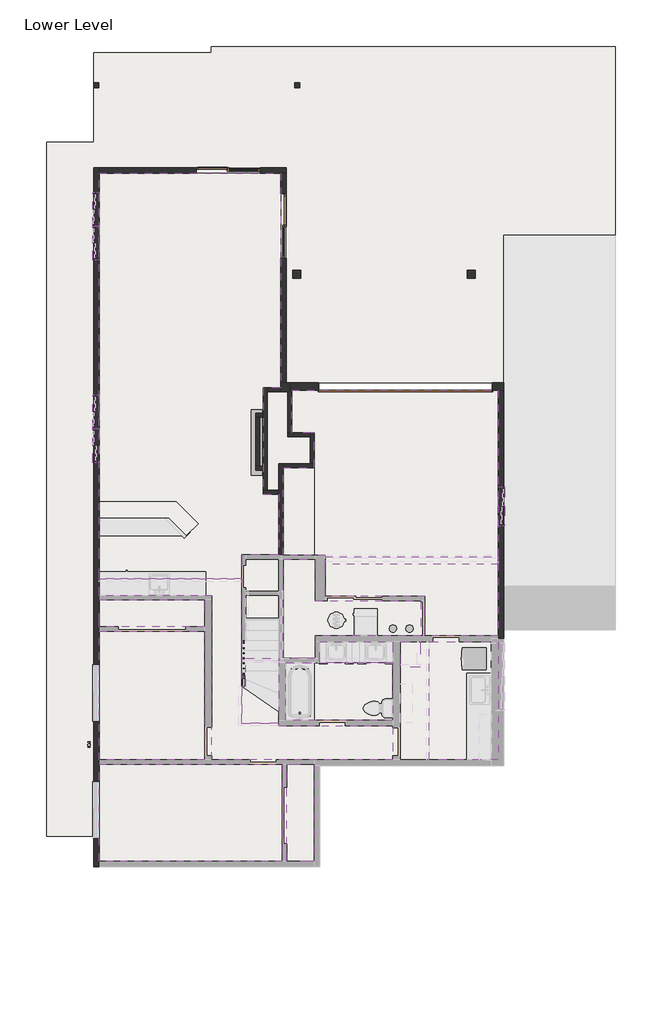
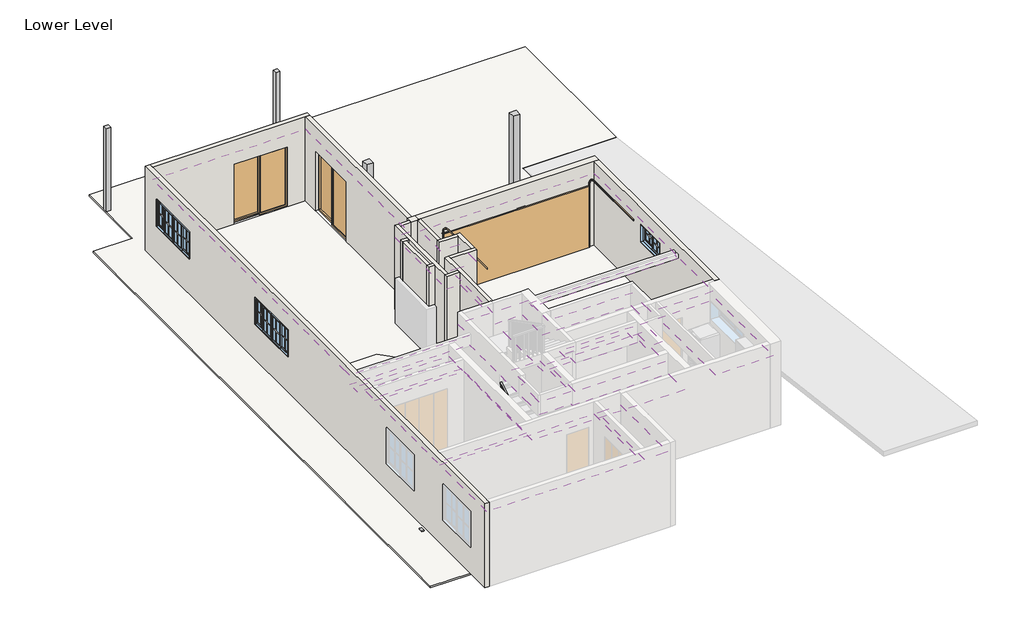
# One storey, part 2 of 3: 20 walls, 14 coverings, 5 windows, 4 columns, 4 slabs, 3 doors, 1 railing.
"""IFC4 building model written with IfcOpenShell, lengths in millimetres."""

from ifc_helpers import new_model, si_unit, frame, origin, place, context, project, spatial, polyline, outline, extrude, faceted_brep, transform, mapped, element, save
from components import rectangular_column_3d_default_1_ab77f7e9, rectangular_column_3d_default_1_58d3c51b, rectangular_column_3d_default_1_3e15c2c2, door_07191283, door_2c25f452, default_1_1ae5369a, default_1_dd337bf1, default_1_e82d8a09

model = new_model("IFC4")

# Units and contexts
model_context = context("Model", 3, world=origin())
ifc_project = project(units=[si_unit("LENGTHUNIT", "METRE", prefix="MILLI")], contexts=[model_context])

# Site, building, storey
site = spatial("IfcSite", under=ifc_project)
building = spatial("IfcBuilding", under=site)
storey = spatial("IfcBuildingStorey", under=building, Name="Lower Level", Elevation=-2844.8)

# Columns
placement = place(None, origin())
rectangular_column_3d_default_1_shape = rectangular_column_3d_default_1_ab77f7e9(model_context)
element("IfcColumn", 1, ObjectType="Rectangular Column 3D : Default 1", at=placement, inside=storey, context=model_context, shape_type="MappedRepresentation", body=[
    mapped(rectangular_column_3d_default_1_shape, transform((-421.5851838, 11951.0061456, -2844.8), x_axis=(1.0, 0.0, 0.0), y_axis=(0.0, 1.0, 0.0), z_axis=(0.0, 0.0, 1.0))),
])
rectangular_column_3d_default_1_2_shape = rectangular_column_3d_default_1_58d3c51b(model_context)
element("IfcColumn", 2, ObjectType="Rectangular Column 3D : Default 1", at=placement, inside=storey, context=model_context, shape_type="MappedRepresentation", body=[
    mapped(rectangular_column_3d_default_1_2_shape, transform((-470.7755931, 6820.2061456, -2844.8), x_axis=(1.0, 0.0, 0.0), y_axis=(0.0, 1.0, 0.0), z_axis=(0.0, 0.0, 1.0))),
])
element("IfcColumn", 3, ObjectType="Rectangular Column 3D : Default 1", at=placement, inside=storey, context=model_context, shape_type="MappedRepresentation", body=[
    mapped(rectangular_column_3d_default_1_2_shape, transform((4228.2244069, 6820.2061456, -2844.8), x_axis=(1.0, 0.0, 0.0), y_axis=(0.0, 1.0, 0.0), z_axis=(0.0, 0.0, 1.0))),
])
rectangular_column_3d_default_1_3_shape = rectangular_column_3d_default_1_3e15c2c2(model_context)
element("IfcColumn", 4, ObjectType="Rectangular Column 3D : Default 1", at=placement, inside=storey, context=model_context, shape_type="MappedRepresentation", body=[
    mapped(rectangular_column_3d_default_1_3_shape, transform((-5844.4851838, 11951.0061456, -2844.8), x_axis=(1.0, 0.0, 0.0), y_axis=(0.0, 1.0, 0.0), z_axis=(0.0, 0.0, 1.0))),
])

# Coverings
element("IfcCovering", 5, ObjectType="1/2\" Ceiling", at=placement, inside=storey, context=model_context, shape_type="SweptSolid", body=[
    extrude(outline(polyline([(-5690.4755931, -8902.3938544), (-5690.4755931, -6279.8438544), (-756.5255931, -6279.8438544), (-756.5255931, -8902.3938544), (-5690.4755931, -8902.3938544)])), frame((0.0, 0.0, -406.4), z_axis=(0.0, 0.0, 1.0), x_axis=(1.0, 0.0, 0.0)), (0.0, 0.0, 1.0), 12.7),
])
element("IfcCovering", 6, ObjectType="1/2\" Ceiling", at=placement, inside=storey, context=model_context, shape_type="SweptSolid", body=[
    extrude(outline(polyline([(-5690.4755931, -6165.5438544), (-5690.4755931, -2692.0938544), (-2845.6755931, -2692.0938544), (-2845.6755931, -6165.5438544), (-5690.4755931, -6165.5438544)])), frame((0.0, 0.0, -406.4), z_axis=(0.0, 0.0, 1.0), x_axis=(1.0, 0.0, 0.0)), (0.0, 0.0, 1.0), 12.7),
])
element("IfcCovering", 7, ObjectType="1/2\" Ceiling", at=placement, inside=storey, context=model_context, shape_type="SweptSolid", body=[
    extrude(outline(polyline([(-642.2255931, -6279.8438544), (100.7244069, -6279.8438544), (100.7244069, -8902.3938544), (-642.2255931, -8902.3938544), (-642.2255931, -6279.8438544)])), frame((0.0, 0.0, -406.4), z_axis=(0.0, 0.0, 1.0), x_axis=(1.0, 0.0, 0.0)), (0.0, 0.0, 1.0), 12.7),
])
element("IfcCovering", 8, ObjectType="1/2\" Ceiling", at=placement, inside=storey, context=model_context, shape_type="SweptSolid", body=[
    extrude(outline(polyline([(-1855.0755931, -1288.7438544), (-5690.4755931, -1288.7438544), (-5690.4755931, -189.0005259), (-5690.4755931, 9652.3061456), (-800.9755931, 9652.3061456), (-800.9755931, 3873.8061456), (-1270.8755931, 3873.8061456), (-1270.8755931, 990.9061456), (-845.4255931, 990.9061456), (-845.4255931, -634.6938544), (-1855.0755931, -634.6938544), (-1855.0755931, -1288.7438544)])), frame((0.0, 0.0, -406.4), z_axis=(0.0, 0.0, 1.0), x_axis=(1.0, 0.0, 0.0)), (0.0, 0.0, 1.0), 12.7),
])
element("IfcCovering", 9, ObjectType="1/2\" Ceiling", at=placement, inside=storey, context=model_context, shape_type="SweptSolid", body=[
    extrude(outline(polyline([(2221.6244069, -5098.7438544), (-667.6255931, -5098.7438544), (-667.6255931, -3542.9938544), (253.1244069, -3542.9938544), (2221.6244069, -3542.9938544), (2221.6244069, -5098.7438544)])), frame((0.0, 0.0, -406.4), z_axis=(0.0, 0.0, 1.0), x_axis=(1.0, 0.0, 0.0)), (0.0, 0.0, 1.0), 12.7),
])
element("IfcCovering", 10, ObjectType="1/2\" Ceiling", at=placement, inside=storey, context=model_context, shape_type="SweptSolid", body=[
    extrude(outline(polyline([(5066.4244069, -2977.8438544), (5066.4244069, -6165.5438544), (3212.2244069, -6165.5438544), (3212.2244069, -2977.8438544), (5066.4244069, -2977.8438544)])), frame((0.0, 0.0, -558.8), z_axis=(0.0, 0.0, 1.0), x_axis=(1.0, 0.0, 0.0)), (0.0, 0.0, 1.0), 12.7),
])
element("IfcCovering", 11, ObjectType="1/2\" Ceiling", at=placement, inside=storey, context=model_context, shape_type="SweptSolid", body=[
    extrude(outline(polyline([(138.8244069, -2812.7438544), (138.8244069, -3428.6938544), (-731.1255931, -3428.6938544), (-731.1255931, -1669.7438544), (-731.1255931, -761.6938544), (138.8244069, -761.6938544), (138.8244069, -1872.9438544), (2970.9244069, -1872.9438544), (2970.9244069, -2812.7438544), (138.8244069, -2812.7438544)])), frame((0.0, 0.0, -711.2), z_axis=(0.0, 0.0, 1.0), x_axis=(1.0, 0.0, 0.0)), (0.0, 0.0, 1.0), 12.7),
])
element("IfcCovering", 12, ObjectType="1/2\" Ceiling", at=placement, inside=storey, context=model_context, shape_type="SweptSolid", body=[
    extrude(outline(polyline([(5066.4244069, 3797.6061456), (5066.4244069, -2812.7438544), (3085.2244069, -2812.7438544), (3085.2244069, -1758.6438544), (405.5244069, -1758.6438544), (405.5244069, -647.3938544), (-731.1255931, -647.3938544), (-731.1255931, 1708.4561456), (107.0744069, 1708.4561456), (107.0744069, 2654.6061456), (-496.1755931, 2654.6061456), (-496.1755931, 3797.6061456), (5066.4244069, 3797.6061456)])), frame((0.0, 0.0, -406.4), z_axis=(0.0, 0.0, 1.0), x_axis=(1.0, 0.0, 0.0)), (0.0, 0.0, 1.0), 12.7),
])
element("IfcCovering", 13, ObjectType="1/2\" Ceiling", at=placement, inside=storey, context=model_context, shape_type="SweptSolid", body=[
    extrude(outline(polyline([(-2845.6755931, -2577.7938544), (-5690.4755931, -2577.7938544), (-5690.4755931, -1853.8938544), (-2845.6755931, -1853.8938544), (-2845.6755931, -2577.7938544)])), frame((0.0, 0.0, -406.4), z_axis=(0.0, 0.0, 1.0), x_axis=(1.0, 0.0, 0.0)), (0.0, 0.0, 1.0), 12.7),
])
element("IfcCovering", 14, ObjectType="1/2\" Ceiling", at=placement, inside=storey, context=model_context, shape_type="SweptSolid", body=[
    extrude(outline(polyline([(-2655.1755931, -1739.5938544), (-5690.4755931, -1739.5938544), (-5690.4755931, -1288.7438544), (-1855.0755931, -1288.7438544), (-1855.0755931, -4184.3438544), (-1855.0755931, -5174.9438544), (-845.4255931, -5174.9438544), (-845.4255931, -5251.1438544), (2221.6244069, -5251.1438544), (2221.6244069, -6165.5438544), (176.9244069, -6165.5438544), (-2655.1755931, -6165.5438544), (-2655.1755931, -1739.5938544)])), frame((0.0, 0.0, -711.2), z_axis=(0.0, 0.0, 1.0), x_axis=(1.0, 0.0, 0.0)), (0.0, 0.0, 1.0), 12.7),
    extrude(outline(polyline([(2424.8244069, -6165.5438544), (2424.8244069, -2977.8438544), (3212.2244069, -2977.8438544), (3212.2244069, -6165.5438544), (2424.8244069, -6165.5438544)])), frame((0.0, 0.0, -711.2), z_axis=(0.0, 0.0, 1.0), x_axis=(1.0, 0.0, 0.0)), (0.0, 0.0, 1.0), 12.7),
])
element("IfcCovering", 15, ObjectType="1/2\" Ceiling", at=placement, inside=storey, context=model_context, shape_type="SweptSolid", body=[
    extrude(outline(polyline([(253.1244069, -3542.9938544), (253.1244069, -2977.8438544), (2221.6244069, -2977.8438544), (2221.6244069, -3542.9938544), (253.1244069, -3542.9938544)])), frame((0.0, 0.0, -711.2), z_axis=(0.0, 0.0, 1.0), x_axis=(1.0, 0.0, 0.0)), (0.0, 0.0, 1.0), 12.7),
])
element("IfcCovering", 16, ObjectType="1/2\" Ceiling", at=placement, inside=storey, context=model_context, shape_type="SweptSolid", body=[
    extrude(outline(polyline([(2958.2244069, -2977.8438544), (2958.2244069, -3663.6438544), (2424.8244069, -3663.6438544), (2424.8244069, -2977.8438544), (2958.2244069, -2977.8438544)])), frame((0.0, 0.0, -863.6), z_axis=(0.0, 0.0, 1.0), x_axis=(1.0, 0.0, 0.0)), (0.0, 0.0, 1.0), 12.7),
])
element("IfcCovering", 17, ObjectType="1/2\" Ceiling", at=placement, inside=storey, context=model_context, shape_type="SweptSolid", body=[
    extrude(outline(polyline([(-1855.0755931, -5174.9438544), (-1855.0755931, -4184.3438544), (-1740.7755931, -4184.3438544), (-1740.7755931, -3428.6938544), (-845.4255931, -3428.6938544), (-845.4255931, -5174.9438544), (-1855.0755931, -5174.9438544)])), frame((0.0, 0.0, -304.8), z_axis=(0.0, 0.0, 1.0), x_axis=(1.0, 0.0, 0.0)), (0.0, 0.0, 1.0), 12.7),
])
element("IfcCovering", 18, ObjectType="1/2\" Ceiling", at=placement, inside=storey, context=model_context, shape_type="SweptSolid", body=[
    extrude(outline(polyline([(5066.4244069, -685.4938544), (5066.4244069, -888.6938544), (405.5244069, -888.6938544), (405.5244069, -685.4938544), (5066.4244069, -685.4938544)])), frame((0.0, 0.0, -457.2), z_axis=(0.0, 0.0, 1.0), x_axis=(1.0, 0.0, 0.0)), (0.0, 0.0, 1.0), 12.7),
])

# Doors
door_shape = door_07191283(model_context)
element("IfcDoor", 19, ObjectType="Planitar - Garage Door : 15'-8\" x 6'-10\"", at=placement, inside=storey, context=model_context, shape_type="MappedRepresentation", body=[
    mapped(door_shape, transform((2564.5244069, 3902.3811456, -2844.8), x_axis=(1.0, 0.0, 0.0), y_axis=(0.0, 1.0, 0.0), z_axis=(0.0, 0.0, 1.0))),
])
door_2_shape = door_2c25f452(model_context)
element("IfcDoor", 20, ObjectType="Planitar - Double Sliding Door_Glass : 5'-8\" x 6'-8\"", at=placement, inside=storey, context=model_context, shape_type="MappedRepresentation", body=[
    mapped(door_2_shape, transform((-2217.0255931, 9601.5061456, -2844.8), x_axis=(1.0, 0.0, 0.0), y_axis=(0.0, 1.0, 0.0), z_axis=(0.0, 0.0, 1.0))),
])
element("IfcDoor", 21, ObjectType="Planitar - Double Sliding Door_Glass : 5'-8\" x 6'-8\"", at=placement, inside=storey, context=model_context, shape_type="MappedRepresentation", body=[
    mapped(door_2_shape, transform((-851.7755931, 8229.9061456, -2844.8), x_axis=(0.0, -1.0, 0.0), y_axis=(1.0, 0.0, 0.0), z_axis=(0.0, 0.0, 1.0))),
])

# Railing
element("IfcRailing", 22, ObjectType="900mm Rectangular", at=placement, inside=storey, context=model_context, shape_type="SweptSolid", body=[
    extrude(outline(polyline([(-4184.3438544, -1829.5271006), (-4184.3438544, -1770.4377527), (-2939.7438544, -986.6159664), (-2939.7438544, -1045.7053144), (-4184.3438544, -1829.5271006)])), frame((-1822.9255931, 0.0, 0.0), z_axis=(1.0, 0.0, 0.0), x_axis=(0.0, 1.0, 0.0)), (0.0, 0.0, 1.0), 50.0),
    extrude(outline(polyline([(-3028.0938544, -1101.3462069), (-3003.0938544, -1085.6017552), (-3003.0938544, -2054.5777778), (-3028.0938544, -2054.5777778), (-3028.0938544, -1101.3462069)])), frame((-1810.4255931, 0.0, 0.0), z_axis=(1.0, 0.0, 0.0), x_axis=(0.0, 1.0, 0.0)), (0.0, 0.0, 1.0), 25.0),
    extrude(outline(polyline([(-3165.5938544, -1187.8773994), (-3140.5938544, -1172.0210225), (-3140.5938544, -2054.5777778), (-3165.5938544, -2054.5777778), (-3165.5938544, -1187.8773994)])), frame((-1810.4255931, 0.0, 0.0), z_axis=(1.0, 0.0, 0.0), x_axis=(0.0, 1.0, 0.0)), (0.0, 0.0, 1.0), 25.0),
    extrude(outline(polyline([(-3303.0938544, -1274.5351762), (-3278.0938544, -1258.7907245), (-3278.0938544, -2212.6222222), (-3303.0938544, -2212.6222222), (-3303.0938544, -1274.5351762)])), frame((-1810.4255931, 0.0, 0.0), z_axis=(1.0, 0.0, 0.0), x_axis=(0.0, 1.0, 0.0)), (0.0, 0.0, 1.0), 25.0),
    extrude(outline(polyline([(-3440.5938544, -1361.1296609), (-3415.5938544, -1345.3852091), (-3415.5938544, -2212.6222222), (-3440.5938544, -2212.6222222), (-3440.5938544, -1361.1296609)])), frame((-1810.4255931, 0.0, 0.0), z_axis=(1.0, 0.0, 0.0), x_axis=(0.0, 1.0, 0.0)), (0.0, 0.0, 1.0), 25.0),
    extrude(outline(polyline([(-3578.0938544, -1447.7241456), (-3553.0938544, -1431.9796938), (-3553.0938544, -2370.6666667), (-3578.0938544, -2370.6666667), (-3578.0938544, -1447.7241456)])), frame((-1810.4255931, 0.0, 0.0), z_axis=(1.0, 0.0, 0.0), x_axis=(0.0, 1.0, 0.0)), (0.0, 0.0, 1.0), 25.0),
    extrude(outline(polyline([(-3715.5938544, -1534.3186302), (-3690.5938544, -1518.5741785), (-3690.5938544, -2370.6666667), (-3715.5938544, -2370.6666667), (-3715.5938544, -1534.3186302)])), frame((-1810.4255931, 0.0, 0.0), z_axis=(1.0, 0.0, 0.0), x_axis=(0.0, 1.0, 0.0)), (0.0, 0.0, 1.0), 25.0),
    extrude(outline(polyline([(-3853.0938544, -1620.9131149), (-3828.0938544, -1605.1686631), (-3828.0938544, -2528.7111111), (-3853.0938544, -2528.7111111), (-3853.0938544, -1620.9131149)])), frame((-1810.4255931, 0.0, 0.0), z_axis=(1.0, 0.0, 0.0), x_axis=(0.0, 1.0, 0.0)), (0.0, 0.0, 1.0), 25.0),
    extrude(outline(polyline([(-3990.5938544, -1707.5075995), (-3965.5938544, -1691.7631478), (-3965.5938544, -2686.7555556), (-3990.5938544, -2686.7555556), (-3990.5938544, -1707.5075995)])), frame((-1810.4255931, 0.0, 0.0), z_axis=(1.0, 0.0, 0.0), x_axis=(0.0, 1.0, 0.0)), (0.0, 0.0, 1.0), 25.0),
    extrude(outline(polyline([(-4128.0938544, -1794.1020842), (-4103.0938544, -1778.3576324), (-4103.0938544, -2686.7555556), (-4128.0938544, -2686.7555556), (-4128.0938544, -1794.1020842)])), frame((-1810.4255931, 0.0, 0.0), z_axis=(1.0, 0.0, 0.0), x_axis=(0.0, 1.0, 0.0)), (0.0, 0.0, 1.0), 25.0),
    extrude(outline(polyline([(-2964.7438544, -1061.4497662), (-2939.7438544, -1045.7053144), (-2939.7438544, -2054.5777778), (-2964.7438544, -2054.5777778), (-2964.7438544, -1061.4497662)])), frame((-1810.4255931, 0.0, 0.0), z_axis=(1.0, 0.0, 0.0), x_axis=(0.0, 1.0, 0.0)), (0.0, 0.0, 1.0), 25.0),
    extrude(outline(polyline([(-4184.3438544, -1829.5271006), (-4159.3438544, -1813.7826489), (-4159.3438544, -2686.7555556), (-4184.3438544, -2686.7555556), (-4184.3438544, -1829.5271006)])), frame((-1810.4255931, 0.0, 0.0), z_axis=(1.0, 0.0, 0.0), x_axis=(0.0, 1.0, 0.0)), (0.0, 0.0, 1.0), 25.0),
])

# Slabs
element("IfcSlab", 23, ObjectType="Ledge - 2\"", at=placement, inside=storey, context=model_context, shape_type="SweptSolid", body=[
    extrude(outline(polyline([(-731.1255931, 1708.4561456), (107.0744069, 1708.4561456), (107.0744069, -647.3938544), (-731.1255931, -647.3938544), (-731.1255931, 1708.4561456)])), frame((0.0, 0.0, -2032.0), z_axis=(0.0, 0.0, 1.0), x_axis=(1.0, 0.0, 0.0)), (0.0, 0.0, 1.0), 50.8),
])
element("IfcSlab", 24, ObjectType="Ledge - 2\"", at=placement, inside=storey, context=model_context, shape_type="SweptSolid", body=[
    extrude(outline(polyline([(-5690.4755931, -8902.3938544), (-5690.4755931, 9652.3061456), (-800.9755931, 9652.3061456), (-800.9755931, 3797.6061456), (5066.4244069, 3797.6061456), (5066.4244069, -2812.7438544), (4875.9244069, -2812.7438544), (4875.9244069, -6165.5438544), (100.7244069, -6165.5438544), (100.7244069, -8902.3938544), (-5690.4755931, -8902.3938544)])), frame((0.0, 0.0, -2895.6), z_axis=(0.0, 0.0, 1.0), x_axis=(1.0, 0.0, 0.0)), (0.0, 0.0, 1.0), 50.8),
])
element("IfcSlab", 25, ObjectType="Ledge - 2\"", at=placement, inside=storey, context=model_context, shape_type="SweptSolid", body=[
    extrude(outline(polyline([(-5842.8755931, 12903.5061456), (-2667.8755931, 12903.5061456), (-2667.8755931, 13068.6061456), (8216.0244069, 13068.6061456), (8216.0244069, 7994.9561456), (5218.8244069, 7994.9561456), (5218.8244069, 4000.8061456), (-648.5755931, 4000.8061456), (-648.5755931, 9804.7061456), (-5842.8755931, 9804.7061456), (-5842.8755931, -8229.2938544), (-7112.8755931, -8229.2938544), (-7112.8755931, 10490.5061456), (-5842.8755931, 10490.5061456), (-5842.8755931, 12903.5061456)])), frame((0.0, 0.0, -2895.6), z_axis=(0.0, 0.0, 1.0), x_axis=(1.0, 0.0, 0.0)), (0.0, 0.0, 1.0), 50.8),
])
element("IfcSlab", 26, ObjectType="Ledge - 2\"", at=placement, inside=storey, context=model_context, shape_type="SweptSolid", body=[
    extrude(outline(polyline([(-3816.5873931, 368.6061456), (-5690.4755931, 368.6061456), (-5690.4755931, 794.0561456), (-3614.0255931, 794.0561456), (-3026.6505931, 206.6811456), (-3340.6564931, -107.3247544), (-3816.5873931, 368.6061456)])), frame((0.0, 0.0, -1727.2), z_axis=(0.0, 0.0, 1.0), x_axis=(1.0, 0.0, 0.0)), (0.0, 0.0, 1.0), 50.8),
])

# Walls
element("IfcWall", 27, ObjectType="Planitar - Generic 6\"", at=placement, inside=storey, context=model_context, shape_type="Brep", body=[
    faceted_brep([(-5690.4755931, -9054.7938544, -2844.8), (-5690.4755931, -8902.3938544, -2844.8), (-5690.4755931, -6279.8438544, -2844.8), (-5690.4755931, -6165.5438544, -2844.8), (-5690.4755931, -2692.0938544, -2844.8), (-5690.4755931, -2577.7938544, -2844.8), (-5690.4755931, -1853.8938544, -2844.8), (-5690.4755931, -1739.5938544, -2844.8), (-5690.4755931, 368.6061456, -2844.8), (-5690.4755931, 482.9061456, -2844.8), (-5690.4755931, 9652.3061456, -2844.8), (-5690.4755931, 9804.7061456, -2844.8), (-5690.4755931, 9804.7061456, 0.0), (-5690.4755931, 9652.3061456, 0.0), (-5690.4755931, -1739.5938544, 0.0), (-5690.4755931, -1853.8938544, 0.0), (-5690.4755931, -2577.7938544, 0.0), (-5690.4755931, -2692.0938544, 0.0), (-5690.4755931, -6165.5438544, 0.0), (-5690.4755931, -6279.8438544, 0.0), (-5690.4755931, -8902.3938544, 0.0), (-5690.4755931, -9054.7938544, 0.0), (-5690.4755931, 3677.9101026, -711.2), (-5690.4755931, 3677.9101026, -1625.6), (-5690.4755931, 1849.1101026, -1625.6), (-5690.4755931, 1849.1101026, -711.2), (-5690.4755931, 7310.1101026, -1625.6), (-5690.4755931, 7310.1101026, -711.2), (-5690.4755931, 9138.9101026, -711.2), (-5690.4755931, 9138.9101026, -1625.6), (-5690.4755931, -6756.0938544, -711.2), (-5690.4755931, -6756.0938544, -1930.4), (-5690.4755931, -8280.0938544, -1930.4), (-5690.4755931, -8280.0938544, -711.2), (-5690.4755931, -3606.4938544, -711.2), (-5690.4755931, -3606.4938544, -1930.4), (-5690.4755931, -5130.4938544, -1930.4), (-5690.4755931, -5130.4938544, -711.2), (-5842.8755931, 9804.7061456, -2844.8), (-5842.8755931, -9054.7938544, -2844.8), (-5842.8755931, -9054.7938544, 0.0), (-5842.8755931, 9804.7061456, 0.0), (-5842.8755931, 3677.9101026, -1625.6), (-5842.8755931, 3677.9101026, -711.2), (-5842.8755931, 1849.1101026, -711.2), (-5842.8755931, 1849.1101026, -1625.6), (-5842.8755931, 7310.1101026, -711.2), (-5842.8755931, 7310.1101026, -1625.6), (-5842.8755931, 9138.9101026, -1625.6), (-5842.8755931, 9138.9101026, -711.2), (-5842.8755931, -6756.0938544, -711.2), (-5842.8755931, -8280.0938544, -711.2), (-5842.8755931, -8280.0938544, -1930.4), (-5842.8755931, -6756.0938544, -1930.4), (-5842.8755931, -3606.4938544, -1930.4), (-5842.8755931, -3606.4938544, -711.2), (-5842.8755931, -5130.4938544, -711.2), (-5842.8755931, -5130.4938544, -1930.4)], [[[0, 1, 2, 3, 4, 5, 6, 7, 8, 9, 10, 11, 12, 13, 14, 15, 16, 17, 18, 19, 20, 21], [22, 23, 24, 25], [26, 27, 28, 29], [30, 31, 32, 33], [34, 35, 36, 37]], [[38, 39, 40, 41], [42, 43, 44, 45], [46, 47, 48, 49], [50, 51, 52, 53], [54, 55, 56, 57]], [[11, 10, 9, 8, 7, 6, 5, 4, 3, 2, 1, 0, 39, 38]], [[21, 20, 19, 18, 17, 16, 15, 14, 13, 12, 41, 40]], [[12, 11, 38, 41]], [[0, 21, 40, 39]], [[23, 22, 43, 42]], [[23, 42, 45, 24]], [[43, 22, 25, 44]], [[25, 24, 45, 44]], [[26, 47, 46, 27]], [[47, 26, 29, 48]], [[27, 46, 49, 28]], [[48, 29, 28, 49]], [[31, 30, 50, 53]], [[32, 31, 53, 52]], [[33, 32, 52, 51]], [[30, 33, 51, 50]], [[34, 55, 54, 35]], [[35, 54, 57, 36]], [[36, 57, 56, 37]], [[55, 34, 37, 56]]]),
])
element("IfcWall", 28, ObjectType="Planitar - Generic 6\"", at=placement, inside=storey, context=model_context, shape_type="Brep", body=[
    faceted_brep([(-1353.4255931, 9652.3061456, -812.8), (-1353.4255931, 9652.3061456, -2844.8), (-800.9755931, 9652.3061456, -2844.8), (-648.5755931, 9652.3061456, -2844.8), (-648.5755931, 9652.3061456, 0.0), (-800.9755931, 9652.3061456, 0.0), (-5690.4755931, 9652.3061456, 0.0), (-5690.4755931, 9652.3061456, -2844.8), (-3080.6255931, 9652.3061456, -2844.8), (-3080.6255931, 9652.3061456, -812.8), (-648.5755931, 9804.7061456, -2844.8), (-1353.4255931, 9804.7061456, -2844.8), (-1353.4255931, 9804.7061456, -812.8), (-3080.6255931, 9804.7061456, -812.8), (-3080.6255931, 9804.7061456, -2844.8), (-5690.4755931, 9804.7061456, -2844.8), (-5690.4755931, 9804.7061456, 0.0), (-648.5755931, 9804.7061456, 0.0)], [[[0, 1, 2, 3, 4, 5, 6, 7, 8, 9]], [[10, 11, 12, 13, 14, 15, 16, 17]], [[8, 7, 15, 14]], [[3, 2, 1, 11, 10]], [[6, 5, 4, 17, 16]], [[7, 6, 16, 15]], [[4, 3, 10, 17]], [[14, 13, 9, 8]], [[12, 11, 1, 0]], [[13, 12, 0, 9]]]),
])
element("IfcWall", 29, ObjectType="Planitar - Generic 6\"", at=placement, inside=storey, context=model_context, shape_type="SweptSolid", body=[
    extrude(outline(polyline([(7366.3061456, -812.8), (7366.3061456, -2844.8), (4000.8061456, -2844.8), (4000.8061456, 0.0), (9652.3061456, 0.0), (9652.3061456, -2844.8), (9093.5061456, -2844.8), (9093.5061456, -812.8), (7366.3061456, -812.8)])), frame((-800.9755931, 0.0, 0.0), z_axis=(1.0, 0.0, 0.0), x_axis=(0.0, 1.0, 0.0)), (0.0, 0.0, 1.0), 152.4),
])
element("IfcWall", 30, ObjectType="Planitar - Generic 6\"", at=placement, inside=storey, context=model_context, shape_type="Brep", body=[
    faceted_brep([(5066.4244069, 3797.6061456, -2844.8), (5066.4244069, -2812.7438544, -2844.8), (5066.4244069, -2895.2938544, -2844.8), (5066.4244069, -2895.2938544, 0.0), (5066.4244069, -2812.7438544, 0.0), (5066.4244069, 3797.6061456, 0.0), (5066.4244069, 133.6561456, -558.8), (5066.4244069, 133.6561456, -1168.4), (5066.4244069, 1200.4561456, -1168.4), (5066.4244069, 1200.4561456, -558.8), (5218.8244069, -2895.2938544, -2844.8), (5218.8244069, 3797.6061456, -2844.8), (5218.8244069, 3797.6061456, 0.0), (5218.8244069, -2895.2938544, 0.0), (5218.8244069, 133.6561456, -1168.4), (5218.8244069, 133.6561456, -558.8), (5218.8244069, 1200.4561456, -558.8), (5218.8244069, 1200.4561456, -1168.4)], [[[0, 1, 2, 3, 4, 5], [6, 7, 8, 9]], [[10, 11, 12, 13], [14, 15, 16, 17]], [[2, 1, 0, 11, 10]], [[3, 2, 10, 13]], [[5, 4, 3, 13, 12]], [[0, 5, 12, 11]], [[6, 15, 14, 7]], [[7, 14, 17, 8]], [[8, 17, 16, 9]], [[15, 6, 9, 16]]]),
])
element("IfcWall", 31, ObjectType="Planitar - Generic 4 1/2\"", at=placement, inside=storey, context=model_context, shape_type="Brep", body=[
    faceted_brep([(-731.1255931, -647.3938544, 0.0), (-731.1255931, -647.3938544, -2844.8), (-731.1255931, 1708.4561456, -2844.8), (-731.1255931, 1822.7561456, -2844.8), (-731.1255931, 1822.7561456, 0.0), (-731.1255931, 1708.4561456, 0.0), (-845.4255931, -634.6938544, -2844.8), (-845.4255931, -634.6938544, 0.0), (-845.4255931, 990.9061456, 0.0), (-845.4255931, 1105.2061456, 0.0), (-845.4255931, 1822.7561456, 0.0), (-845.4255931, 1822.7561456, -2844.8), (-845.4255931, 1105.2061456, -2844.8), (-845.4255931, 990.9061456, -2844.8), (-788.2755931, -647.3938544, -2844.8), (-788.2755931, -634.6938544, -2844.8), (-788.2755931, -634.6938544, 0.0), (-788.2755931, -647.3938544, 0.0)], [[[0, 1, 2, 3, 4, 5]], [[6, 7, 8, 9, 10, 11, 12, 13]], [[3, 2, 1, 14, 15, 6, 13, 12, 11]], [[0, 5, 4, 10, 9, 8, 7, 16, 17]], [[4, 3, 11, 10]], [[17, 16, 15, 14]], [[15, 16, 7, 6]], [[0, 17, 14, 1]]]),
])
element("IfcWall", 32, ObjectType="Planitar - Generic 4 1/2\"", at=placement, inside=storey, context=model_context, shape_type="Brep", body=[
    faceted_brep([(-731.1255931, 1708.4561456, -2844.8), (-7.2255931, 1708.4561456, -2844.8), (107.0744069, 1708.4561456, -2844.8), (107.0744069, 1708.4561456, -2032.0), (107.0744069, 1708.4561456, 0.0), (-731.1255931, 1708.4561456, 0.0), (-731.1255931, 1822.7561456, -2844.8), (-731.1255931, 1822.7561456, 0.0), (-7.2255931, 1822.7561456, 0.0), (107.0744069, 1822.7561456, 0.0), (107.0744069, 1822.7561456, -2844.8), (-7.2255931, 1822.7561456, -2844.8)], [[[0, 1, 2, 3, 4, 5]], [[6, 7, 8, 9, 10, 11]], [[2, 1, 0, 6, 11, 10]], [[5, 4, 9, 8, 7]], [[0, 5, 7, 6]], [[2, 10, 9, 4, 3]]]),
])
element("IfcWall", 33, ObjectType="Planitar - Generic 4 1/2\"", at=placement, inside=storey, context=model_context, shape_type="Brep", body=[
    faceted_brep([(107.0744069, 1822.7561456, 0.0), (107.0744069, 1822.7561456, -2844.8), (107.0744069, 2654.6061456, -2844.8), (107.0744069, 2654.6061456, 0.0), (-7.2255931, 1822.7561456, -2844.8), (-7.2255931, 1822.7561456, 0.0), (-7.2255931, 2540.3061456, 0.0), (-7.2255931, 2654.6061456, 0.0), (-7.2255931, 2654.6061456, -2844.8), (-7.2255931, 2540.3061456, -2844.8)], [[[0, 1, 2, 3]], [[4, 5, 6, 7, 8, 9]], [[2, 1, 4, 9, 8]], [[0, 3, 7, 6, 5]], [[3, 2, 8, 7]], [[0, 5, 4, 1]]]),
])
element("IfcWall", 34, ObjectType="Planitar - Generic 4 1/2\"", at=placement, inside=storey, context=model_context, shape_type="Brep", body=[
    faceted_brep([(-7.2255931, 2654.6061456, -2844.8), (-496.1755931, 2654.6061456, -2844.8), (-610.4755931, 2654.6061456, -2844.8), (-610.4755931, 2654.6061456, 0.0), (-496.1755931, 2654.6061456, 0.0), (-7.2255931, 2654.6061456, 0.0), (-7.2255931, 2540.3061456, -2844.8), (-7.2255931, 2540.3061456, 0.0), (-610.4755931, 2540.3061456, 0.0), (-610.4755931, 2540.3061456, -2844.8)], [[[0, 1, 2, 3, 4, 5]], [[6, 7, 8, 9]], [[2, 1, 0, 6, 9]], [[5, 4, 3, 8, 7]], [[0, 5, 7, 6]], [[3, 2, 9, 8]]]),
])
element("IfcWall", 35, ObjectType="Planitar - Generic 4 1/2\"", at=placement, inside=storey, context=model_context, shape_type="SweptSolid", body=[
    extrude(outline(polyline([(-496.1755931, 3797.6061456), (-496.1755931, 2654.6061456), (-610.4755931, 2654.6061456), (-610.4755931, 3759.5061456), (-553.3255931, 3759.5061456), (-553.3255931, 3797.6061456), (-496.1755931, 3797.6061456)])), frame((0.0, 0.0, -2844.8), z_axis=(0.0, 0.0, 1.0), x_axis=(1.0, 0.0, 0.0)), (0.0, 0.0, 1.0), 2844.8),
])
element("IfcWall", 36, ObjectType="Planitar - Generic 8\"", at=placement, inside=storey, context=model_context, shape_type="Brep", body=[
    faceted_brep([(5218.8244069, 3797.6061456, 0.0), (5066.4244069, 3797.6061456, 0.0), (-496.1755931, 3797.6061456, 0.0), (-553.3255931, 3797.6061456, 0.0), (-553.3255931, 3797.6061456, -2844.8), (-496.1755931, 3797.6061456, -2844.8), (227.7244069, 3797.6061456, -2844.8), (227.7244069, 3797.6061456, -762.0), (4901.3244069, 3797.6061456, -762.0), (4901.3244069, 3797.6061456, -2844.8), (5066.4244069, 3797.6061456, -2844.8), (5218.8244069, 3797.6061456, -2844.8), (-553.3255931, 4000.8061456, 0.0), (5218.8244069, 4000.8061456, 0.0), (5218.8244069, 4000.8061456, -2844.8), (4901.3244069, 4000.8061456, -2844.8), (4901.3244069, 4000.8061456, -762.0), (227.7244069, 4000.8061456, -762.0), (227.7244069, 4000.8061456, -2844.8), (-553.3255931, 4000.8061456, -2844.8)], [[[0, 1, 2, 3, 4, 5, 6, 7, 8, 9, 10, 11]], [[12, 13, 14, 15, 16, 17, 18, 19]], [[14, 11, 10, 9, 15]], [[4, 19, 18, 6, 5]], [[3, 2, 1, 0, 13, 12]], [[4, 3, 12, 19]], [[0, 11, 14, 13]], [[8, 16, 15, 9]], [[16, 8, 7, 17]], [[17, 7, 6, 18]]]),
])
element("IfcWall", 37, ObjectType="Planitar - Generic 9 1/2\"", at=placement, inside=storey, context=model_context, shape_type="Brep", body=[
    faceted_brep([(-553.3255931, 4000.8061456, -2844.8), (-648.5755931, 4000.8061456, -2844.8), (-800.9755931, 4000.8061456, -2844.8), (-800.9755931, 4000.8061456, 0.0), (-648.5755931, 4000.8061456, 0.0), (-553.3255931, 4000.8061456, 0.0), (-553.3255931, 3759.5061456, -2844.8), (-553.3255931, 3759.5061456, 0.0), (-610.4755931, 3759.5061456, 0.0), (-800.9755931, 3759.5061456, 0.0), (-800.9755931, 3759.5061456, -2844.8), (-610.4755931, 3759.5061456, -2844.8), (-553.3255931, 3797.6061456, -2844.8), (-800.9755931, 3873.8061456, -2844.8), (-800.9755931, 3873.8061456, 0.0), (-553.3255931, 3797.6061456, 0.0)], [[[0, 1, 2, 3, 4, 5]], [[6, 7, 8, 9, 10, 11]], [[2, 1, 0, 12, 6, 11, 10, 13]], [[5, 4, 3, 14, 9, 8, 7, 15]], [[0, 5, 15, 7, 6, 12]], [[3, 2, 13, 10, 9, 14]]]),
])
element("IfcWall", 38, ObjectType="Planitar - Generic 4 1/2\"", at=placement, inside=storey, context=model_context, shape_type="Brep", body=[
    faceted_brep([(-845.4255931, 1105.2061456, -2844.8), (-1156.5755931, 1105.2061456, -2844.8), (-1270.8755931, 1105.2061456, -2844.8), (-1270.8755931, 1105.2061456, 0.0), (-1156.5755931, 1105.2061456, 0.0), (-845.4255931, 1105.2061456, 0.0), (-845.4255931, 990.9061456, -2844.8), (-845.4255931, 990.9061456, 0.0), (-1270.8755931, 990.9061456, 0.0), (-1270.8755931, 990.9061456, -2844.8)], [[[0, 1, 2, 3, 4, 5]], [[6, 7, 8, 9]], [[2, 1, 0, 6, 9]], [[5, 4, 3, 8, 7]], [[0, 5, 7, 6]], [[3, 2, 9, 8]]]),
])
element("IfcWall", 39, ObjectType="Planitar - Generic 4 1/2\"", at=placement, inside=storey, context=model_context, shape_type="SweptSolid", body=[
    extrude(outline(polyline([(-800.9755931, 3759.5061456), (-1156.5755931, 3759.5061456), (-1156.5755931, 3873.8061456), (-800.9755931, 3873.8061456), (-800.9755931, 3759.5061456)])), frame((0.0, 0.0, -2844.8), z_axis=(0.0, 0.0, 1.0), x_axis=(1.0, 0.0, 0.0)), (0.0, 0.0, 1.0), 2844.8),
])
element("IfcWall", 40, ObjectType="Planitar - Generic 4 1/2\"", at=placement, inside=storey, context=model_context, shape_type="Brep", body=[
    faceted_brep([(-5690.4755931, 368.6061456, -2844.8), (-3816.5873931, 368.6061456, -2844.8), (-3654.9427829, 368.6061456, -2844.8), (-3654.9427829, 368.6061456, -1727.2), (-3816.5873931, 368.6061456, -1727.2), (-5690.4755931, 368.6061456, -1727.2), (-5690.4755931, 482.9061456, -2844.8), (-5690.4755931, 482.9061456, -1727.2), (-3769.2427829, 482.9061456, -1727.2), (-3769.2427829, 482.9061456, -2844.8)], [[[0, 1, 2, 3, 4, 5]], [[6, 7, 8, 9]], [[2, 1, 0, 6, 9]], [[5, 4, 3, 8, 7]], [[3, 2, 9, 8]], [[0, 5, 7, 6]]]),
])
element("IfcWall", 41, ObjectType="Planitar - Generic 4 1/2\"", at=placement, inside=storey, context=model_context, shape_type="SweptSolid", body=[
    extrude(outline(polyline([(-3340.6564931, -107.3247544), (-3816.5873931, 368.6061456), (-3654.9427829, 368.6061456), (-3259.834188, -26.5024493), (-3340.6564931, -107.3247544)])), frame((0.0, 0.0, -2844.8), z_axis=(0.0, 0.0, 1.0), x_axis=(1.0, 0.0, 0.0)), (0.0, 0.0, 1.0), 1117.6),
])
element("IfcWall", 42, ObjectType="Planitar - Generic 4 1/2\"", at=placement, inside=storey, context=model_context, shape_type="Brep", body=[
    faceted_brep([(-1270.8755931, 1752.9061456, -2006.6), (-1359.7755931, 1752.9061456, -2006.6), (-1474.0755931, 1752.9061456, -2006.6), (-1474.0755931, 1752.9061456, 0.0), (-1359.7755931, 1752.9061456, 0.0), (-1270.8755931, 1752.9061456, 0.0), (-1270.8755931, 1638.6061456, -2006.6), (-1270.8755931, 1638.6061456, 0.0), (-1474.0755931, 1638.6061456, 0.0), (-1474.0755931, 1638.6061456, -2006.6)], [[[0, 1, 2, 3, 4, 5]], [[6, 7, 8, 9]], [[2, 1, 0, 6, 9]], [[5, 4, 3, 8, 7]], [[3, 2, 9, 8]], [[0, 5, 7, 6]]]),
])
element("IfcWall", 43, ObjectType="Planitar - Generic 4 1/2\"", at=placement, inside=storey, context=model_context, shape_type="SweptSolid", body=[
    extrude(outline(polyline([(-1359.7755931, 3067.3561456), (-1359.7755931, 1752.9061456), (-1474.0755931, 1752.9061456), (-1474.0755931, 3067.3561456), (-1359.7755931, 3067.3561456)])), frame((0.0, 0.0, -2006.6), z_axis=(0.0, 0.0, 1.0), x_axis=(1.0, 0.0, 0.0)), (0.0, 0.0, 1.0), 2006.6),
])
element("IfcWall", 44, ObjectType="Planitar - Generic 4 1/2\"", at=placement, inside=storey, context=model_context, shape_type="Brep", body=[
    faceted_brep([(-1474.0755931, 3067.3561456, -2006.6), (-1359.7755931, 3067.3561456, -2006.6), (-1270.8755931, 3067.3561456, -2006.6), (-1270.8755931, 3067.3561456, 0.0), (-1359.7755931, 3067.3561456, 0.0), (-1474.0755931, 3067.3561456, 0.0), (-1474.0755931, 3181.6561456, -2006.6), (-1474.0755931, 3181.6561456, 0.0), (-1270.8755931, 3181.6561456, 0.0), (-1270.8755931, 3181.6561456, -2006.6)], [[[0, 1, 2, 3, 4, 5]], [[6, 7, 8, 9]], [[2, 1, 0, 6, 9]], [[5, 4, 3, 8, 7]], [[0, 5, 7, 6]], [[3, 2, 9, 8]]]),
])
element("IfcWall", 45, ObjectType="Planitar - Generic 4 1/2\"", at=placement, inside=storey, context=model_context, shape_type="Brep", body=[
    faceted_brep([(-1156.5755931, 1105.2061456, -2844.8), (-1156.5755931, 3759.5061456, -2844.8), (-1156.5755931, 3873.8061456, -2844.8), (-1156.5755931, 3873.8061456, 0.0), (-1156.5755931, 3759.5061456, 0.0), (-1156.5755931, 1105.2061456, 0.0), (-1270.8755931, 1105.2061456, -2844.8), (-1270.8755931, 1105.2061456, 0.0), (-1270.8755931, 1638.6061456, 0.0), (-1270.8755931, 1752.9061456, 0.0), (-1270.8755931, 3067.3561456, 0.0), (-1270.8755931, 3181.6561456, 0.0), (-1270.8755931, 3873.8061456, 0.0), (-1270.8755931, 3873.8061456, -2844.8)], [[[0, 1, 2, 3, 4, 5]], [[6, 7, 8, 9, 10, 11, 12, 13]], [[2, 1, 0, 6, 13]], [[5, 4, 3, 12, 11, 10, 9, 8, 7]], [[3, 2, 13, 12]], [[0, 5, 7, 6]]]),
])
element("IfcWall", 46, ObjectType="Planitar - Generic 4 1/2\"", at=placement, inside=storey, context=model_context, shape_type="SweptSolid", body=[
    extrude(outline(polyline([(-7.2255931, -647.3938544), (-7.2255931, 1708.4561456), (107.0744069, 1708.4561456), (107.0744069, -647.3938544), (-7.2255931, -647.3938544)])), frame((0.0, 0.0, -2844.8), z_axis=(0.0, 0.0, 1.0), x_axis=(1.0, 0.0, 0.0)), (0.0, 0.0, 1.0), 812.8),
])

# Windows
default_1_shape = default_1_1ae5369a(model_context)
element("IfcWindow", 47, ObjectType="Planitar-Sliding-Double : Default 1", at=placement, inside=storey, context=model_context, shape_type="MappedRepresentation", body=[
    mapped(default_1_shape, transform((-5770.4855931, 3220.7101026, -2540.0), x_axis=(0.0, 1.0, 0.0), y_axis=(-1.0, 0.0, 0.0), z_axis=(0.0, 0.0, 1.0))),
])
element("IfcWindow", 48, ObjectType="Planitar-Sliding-Double : Default 1", at=placement, inside=storey, context=model_context, shape_type="MappedRepresentation", body=[
    mapped(default_1_shape, transform((-5770.4855931, 8681.7101026, -2540.0), x_axis=(0.0, 1.0, 0.0), y_axis=(-1.0, 0.0, 0.0), z_axis=(0.0, 0.0, 1.0))),
])
default_1_2_shape = default_1_dd337bf1(model_context)
element("IfcWindow", 49, ObjectType="Planitar-Sliding-Double : Default 1", at=placement, inside=storey, context=model_context, shape_type="MappedRepresentation", body=[
    mapped(default_1_2_shape, transform((-5770.4855931, 2306.3101026, -2540.0), x_axis=(0.0, -1.0, 0.0), y_axis=(1.0, 0.0, 0.0), z_axis=(0.0, 0.0, 1.0))),
])
element("IfcWindow", 50, ObjectType="Planitar-Sliding-Double : Default 1", at=placement, inside=storey, context=model_context, shape_type="MappedRepresentation", body=[
    mapped(default_1_2_shape, transform((-5770.4855931, 7767.3101026, -2540.0), x_axis=(0.0, -1.0, 0.0), y_axis=(1.0, 0.0, 0.0), z_axis=(0.0, 0.0, 1.0))),
])
default_1_3_shape = default_1_e82d8a09(model_context)
element("IfcWindow", 51, ObjectType="Planitar-Sliding-Double : Default 1", at=placement, inside=storey, context=model_context, shape_type="MappedRepresentation", body=[
    mapped(default_1_3_shape, transform((5146.4344069, 667.0561456, -2082.8), x_axis=(0.0, -1.0, 0.0), y_axis=(1.0, 0.0, 0.0), z_axis=(0.0, 0.0, 1.0))),
])

save(model, "model.ifc")
